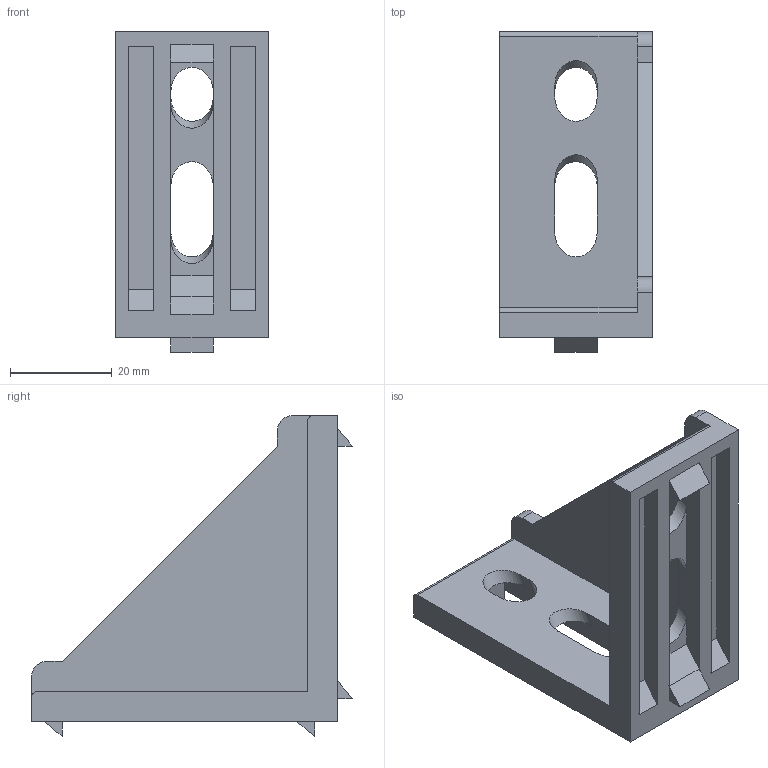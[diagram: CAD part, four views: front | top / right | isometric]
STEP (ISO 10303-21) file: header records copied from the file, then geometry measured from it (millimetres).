
FILE_DESCRIPTION (( 'STEP AP203' ), '1' );
FILE_NAME ('LIMA-GE30X60.STEP', '2018-03-15T12:44:53', ( '' ), ( '' ), 'SwSTEP 2.0', 'SolidWorks 2013', '' );
FILE_SCHEMA (( 'CONFIG_CONTROL_DESIGN' ));
Length unit declared in the file: millimetre
Products named in the file (1): LIMA-GE30X60
Bounding box: 30 x 62.94 x 62.94 mm (x, y, z)
Volume: 17448.3 mm3; surface area: 13246.8 mm2
Topology: 1 solids, 1 shells, 76 faces, 204 edges, 132 vertices
Faces by surface type: plane 60, cylinder 16
Entity records: 2413 total; most frequent: CARTESIAN_POINT 485, ORIENTED_EDGE 408, DIRECTION 342, EDGE_CURVE 204, LINE 172, VECTOR 172, VERTEX_POINT 132, EDGE_LOOP 86
